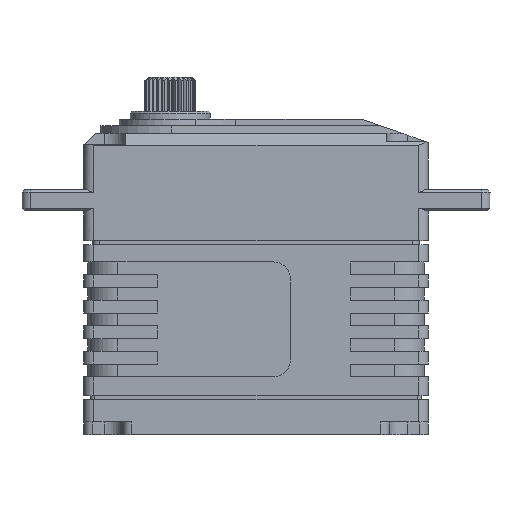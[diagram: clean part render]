
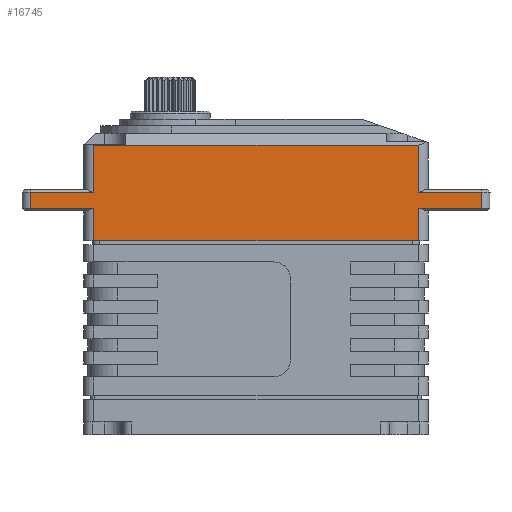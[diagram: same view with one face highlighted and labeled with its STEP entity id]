
A CAD part, front view. The second image highlights one B-rep face of the part: STEP entity #16745.
In plain terms, the highlighted planar face has unit normal (0, -1, 0).
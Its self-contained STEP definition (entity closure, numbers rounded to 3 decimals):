
#233 = LINE ( 'NONE', #25483, #15319 ) ;
#535 = CARTESIAN_POINT ( 'NONE',  ( -20.393, -1.936, 16.6 ) ) ;
#759 = ORIENTED_EDGE ( 'NONE', *, *, #21226, .T. ) ;
#878 = VERTEX_POINT ( 'NONE', #16141 ) ;
#1003 = EDGE_CURVE ( 'NONE', #16526, #17530, #22386, .T. ) ;
#1365 = LINE ( 'NONE', #6091, #18647 ) ;
#1523 = CARTESIAN_POINT ( 'NONE',  ( -65.943, -1.936, 14.7 ) ) ;
#1584 = VECTOR ( 'NONE', #15155, 1000. ) ;
#2213 = AXIS2_PLACEMENT_3D ( 'NONE', #9516, #5472, #25522 ) ;
#2544 = DIRECTION ( 'NONE',  ( -1., 0., 0. ) ) ;
#2674 = DIRECTION ( 'NONE',  ( 0., 0., -1. ) ) ;
#3136 = CARTESIAN_POINT ( 'NONE',  ( -65.943, -1.936, 22.141 ) ) ;
#3195 = CARTESIAN_POINT ( 'NONE',  ( -12.943, -1.936, 22.141 ) ) ;
#3222 = VECTOR ( 'NONE', #17609, 1000. ) ;
#3289 = ORIENTED_EDGE ( 'NONE', *, *, #18815, .T. ) ;
#3879 = ORIENTED_EDGE ( 'NONE', *, *, #15565, .T. ) ;
#3972 = VECTOR ( 'NONE', #4878, 1000. ) ;
#4186 = LINE ( 'NONE', #21063, #21456 ) ;
#4495 = CARTESIAN_POINT ( 'NONE',  ( -20.393, -1.936, 22.141 ) ) ;
#4878 = DIRECTION ( 'NONE',  ( 0., 0., 1. ) ) ;
#4919 = VECTOR ( 'NONE', #13666, 1000. ) ;
#5043 = LINE ( 'NONE', #10744, #7875 ) ;
#5101 = DIRECTION ( 'NONE',  ( 0., 0., -1. ) ) ;
#5150 = CARTESIAN_POINT ( 'NONE',  ( -20.393, -1.936, 22.141 ) ) ;
#5259 = EDGE_CURVE ( 'NONE', #13019, #878, #12790, .T. ) ;
#5472 = DIRECTION ( 'NONE',  ( 0., -1., 0. ) ) ;
#6091 = CARTESIAN_POINT ( 'NONE',  ( -65.943, -1.936, 10.9 ) ) ;
#6158 = LINE ( 'NONE', #20441, #24956 ) ;
#6483 = LINE ( 'NONE', #3136, #16892 ) ;
#7075 = CARTESIAN_POINT ( 'NONE',  ( -20.393, -1.936, 14.7 ) ) ;
#7331 = CARTESIAN_POINT ( 'NONE',  ( -65.943, -1.936, 14.7 ) ) ;
#7443 = EDGE_CURVE ( 'NONE', #14228, #22054, #4186, .T. ) ;
#7678 = ORIENTED_EDGE ( 'NONE', *, *, #7443, .T. ) ;
#7686 = EDGE_CURVE ( 'NONE', #20399, #16526, #14531, .T. ) ;
#7875 = VECTOR ( 'NONE', #2674, 1000. ) ;
#8402 = VECTOR ( 'NONE', #9617, 1000. ) ;
#8782 = ORIENTED_EDGE ( 'NONE', *, *, #24241, .T. ) ;
#9075 = DIRECTION ( 'NONE',  ( 0., 0., 1. ) ) ;
#9255 = CARTESIAN_POINT ( 'NONE',  ( -58.493, -1.936, 10.9 ) ) ;
#9516 = CARTESIAN_POINT ( 'NONE',  ( -65.943, -1.936, 22.141 ) ) ;
#9617 = DIRECTION ( 'NONE',  ( 1., 0., 0. ) ) ;
#9766 = EDGE_CURVE ( 'NONE', #18622, #19408, #5043, .T. ) ;
#9804 = ORIENTED_EDGE ( 'NONE', *, *, #24506, .T. ) ;
#10571 = LINE ( 'NONE', #23961, #4919 ) ;
#10744 = CARTESIAN_POINT ( 'NONE',  ( -58.493, -1.936, 22.141 ) ) ;
#12124 = LINE ( 'NONE', #3195, #3972 ) ;
#12560 = EDGE_LOOP ( 'NONE', ( #3289, #759, #21872, #9804, #3879, #7678, #18982, #13289, #15496, #8782, #14713, #13153 ) ) ;
#12790 = LINE ( 'NONE', #7331, #8402 ) ;
#13019 = VERTEX_POINT ( 'NONE', #7075 ) ;
#13153 = ORIENTED_EDGE ( 'NONE', *, *, #1003, .T. ) ;
#13289 = ORIENTED_EDGE ( 'NONE', *, *, #9766, .T. ) ;
#13582 = VERTEX_POINT ( 'NONE', #14690 ) ;
#13666 = DIRECTION ( 'NONE',  ( 0., 0., -1. ) ) ;
#14228 = VERTEX_POINT ( 'NONE', #535 ) ;
#14531 = LINE ( 'NONE', #1523, #3222 ) ;
#14690 = CARTESIAN_POINT ( 'NONE',  ( -12.943, -1.936, 16.6 ) ) ;
#14713 = ORIENTED_EDGE ( 'NONE', *, *, #7686, .T. ) ;
#14996 = DIRECTION ( 'NONE',  ( -1., 0., 0. ) ) ;
#15155 = DIRECTION ( 'NONE',  ( 0., 0., 1. ) ) ;
#15319 = VECTOR ( 'NONE', #25400, 1000. ) ;
#15496 = ORIENTED_EDGE ( 'NONE', *, *, #16956, .T. ) ;
#15505 = VECTOR ( 'NONE', #5101, 1000. ) ;
#15512 = CARTESIAN_POINT ( 'NONE',  ( -58.493, -1.936, 22.141 ) ) ;
#15565 = EDGE_CURVE ( 'NONE', #13582, #14228, #233, .T. ) ;
#15604 = CARTESIAN_POINT ( 'NONE',  ( -65.943, -1.936, 14.7 ) ) ;
#16141 = CARTESIAN_POINT ( 'NONE',  ( -12.943, -1.936, 14.7 ) ) ;
#16526 = VERTEX_POINT ( 'NONE', #19248 ) ;
#16745 = ADVANCED_FACE ( 'NONE', ( #24987 ), #21523, .T. ) ;
#16892 = VECTOR ( 'NONE', #14996, 1000. ) ;
#16956 = EDGE_CURVE ( 'NONE', #19408, #25335, #6158, .T. ) ;
#17530 = VERTEX_POINT ( 'NONE', #9255 ) ;
#17609 = DIRECTION ( 'NONE',  ( 1., 0., 0. ) ) ;
#18622 = VERTEX_POINT ( 'NONE', #15512 ) ;
#18647 = VECTOR ( 'NONE', #22226, 1000. ) ;
#18815 = EDGE_CURVE ( 'NONE', #17530, #21839, #1365, .T. ) ;
#18982 = ORIENTED_EDGE ( 'NONE', *, *, #24020, .T. ) ;
#19248 = CARTESIAN_POINT ( 'NONE',  ( -58.493, -1.936, 14.7 ) ) ;
#19408 = VERTEX_POINT ( 'NONE', #23105 ) ;
#19528 = CARTESIAN_POINT ( 'NONE',  ( -65.943, -1.936, 16.6 ) ) ;
#20399 = VERTEX_POINT ( 'NONE', #15604 ) ;
#20414 = LINE ( 'NONE', #5150, #1584 ) ;
#20441 = CARTESIAN_POINT ( 'NONE',  ( -65.943, -1.936, 16.6 ) ) ;
#20975 = CARTESIAN_POINT ( 'NONE',  ( -20.393, -1.936, 10.9 ) ) ;
#21055 = CARTESIAN_POINT ( 'NONE',  ( -58.493, -1.936, 22.141 ) ) ;
#21063 = CARTESIAN_POINT ( 'NONE',  ( -20.393, -1.936, 22.141 ) ) ;
#21226 = EDGE_CURVE ( 'NONE', #21839, #13019, #20414, .T. ) ;
#21456 = VECTOR ( 'NONE', #9075, 1000. ) ;
#21523 = PLANE ( 'NONE',  #2213 ) ;
#21839 = VERTEX_POINT ( 'NONE', #20975 ) ;
#21872 = ORIENTED_EDGE ( 'NONE', *, *, #5259, .T. ) ;
#22054 = VERTEX_POINT ( 'NONE', #4495 ) ;
#22226 = DIRECTION ( 'NONE',  ( 1., 0., 0. ) ) ;
#22386 = LINE ( 'NONE', #21055, #15505 ) ;
#23105 = CARTESIAN_POINT ( 'NONE',  ( -58.493, -1.936, 16.6 ) ) ;
#23961 = CARTESIAN_POINT ( 'NONE',  ( -65.943, -1.936, 22.141 ) ) ;
#24020 = EDGE_CURVE ( 'NONE', #22054, #18622, #6483, .T. ) ;
#24241 = EDGE_CURVE ( 'NONE', #25335, #20399, #10571, .T. ) ;
#24506 = EDGE_CURVE ( 'NONE', #878, #13582, #12124, .T. ) ;
#24956 = VECTOR ( 'NONE', #2544, 1000. ) ;
#24987 = FACE_OUTER_BOUND ( 'NONE', #12560, .T. ) ;
#25335 = VERTEX_POINT ( 'NONE', #19528 ) ;
#25400 = DIRECTION ( 'NONE',  ( -1., 0., 0. ) ) ;
#25483 = CARTESIAN_POINT ( 'NONE',  ( -65.943, -1.936, 16.6 ) ) ;
#25522 = DIRECTION ( 'NONE',  ( 0., 0., -1. ) ) ;
